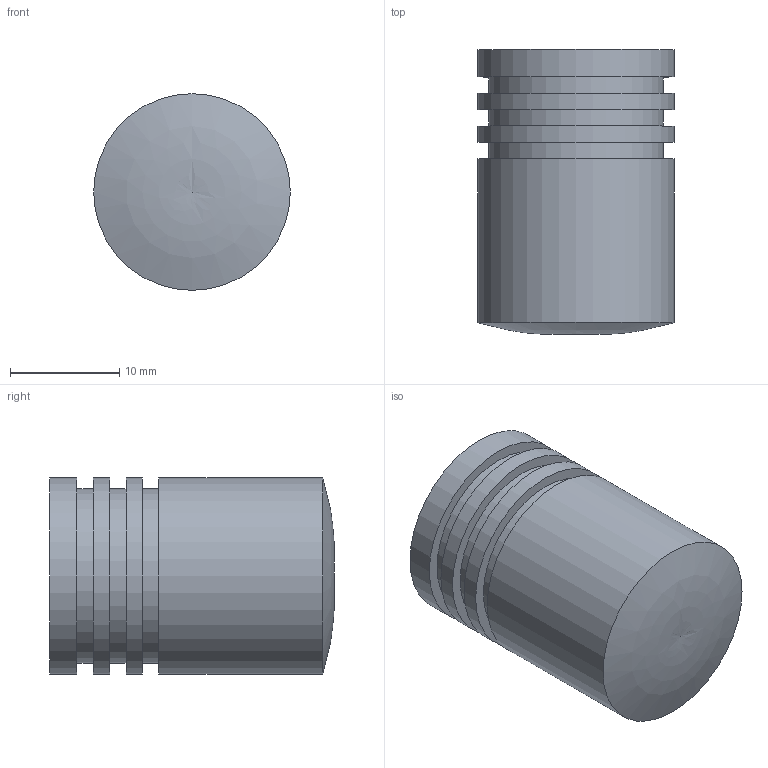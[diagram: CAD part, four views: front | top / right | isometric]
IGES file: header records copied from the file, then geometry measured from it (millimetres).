
Start section: Data from Parasolid IGES Translator 15.0.47, Copyright(c) 2006 Siemens P LM Software. All Rights Reserved.
Global section: file name: 9070264.igs; native system:  By UGS Corp.; preprocessor: XPlus GENERIC/IGES 3.0; author: Noname; organization: Noname; date: 20140122.174849; units: millimetre
Bounding box: 18 x 26.09 x 18 mm (x, y, z)
Surface area: 2345.6 mm2 (no closed solid volume)
Topology: 0 solids, 0 shells, 17 faces, 51 edges, 34 vertices
Faces by surface type: revolution 9, extrusion 8
